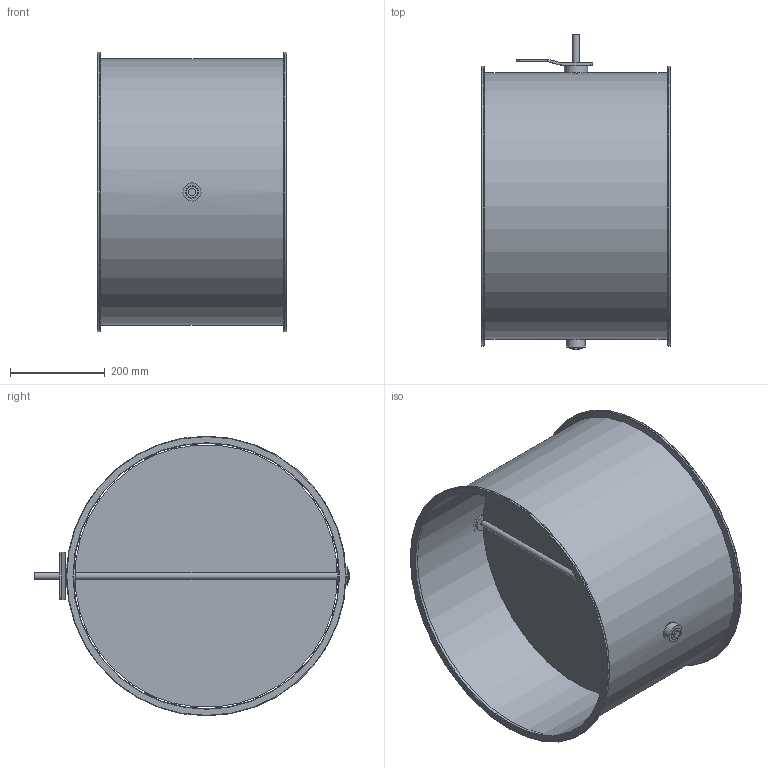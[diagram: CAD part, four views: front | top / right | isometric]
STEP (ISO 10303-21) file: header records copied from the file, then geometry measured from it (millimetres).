
FILE_DESCRIPTION(/* description */ (''),/* implementation_level */ '2;1');
FILE_NAME(/* name */ 'EA111-80B__560_L400_Belimo_Typ_SM.stp',/* time_stamp */ '2017-12-07T11:04:26+01:00',/* author */ (''),/* organization */ (''),/* preprocessor_version */ 'ST-DEVELOPER v11',/* originating_system */ 'SIEMENS UGS NX 6.0',/* authorisation */ '');
FILE_SCHEMA (('CONFIG_CONTROL_DESIGN'));
Length unit declared in the file: millimetre
Products named in the file (1): gars5544kxbs
Bounding box: 400 x 664 x 590 mm (x, y, z)
Volume: 1591110 mm3; surface area: 2074232.3 mm2
Topology: 8 solids, 8 shells, 78 faces, 164 edges, 104 vertices
Faces by surface type: plane 36, cylinder 34, torus 6, cone 2
Full cylindrical faces by diameter (mm): 6.1 x6, 15 x3, 25 x3, 25.85 x2, 26 x2, 38 x3, 49 x1, 560 x1, 562 x1, 590 x2
Entity records: 2028 total; most frequent: CARTESIAN_POINT 363, DIRECTION 346, ORIENTED_EDGE 244, AXIS2_PLACEMENT_3D 149, EDGE_LOOP 140, EDGE_CURVE 122, FACE_BOUND 110, VERTEX_POINT 94
